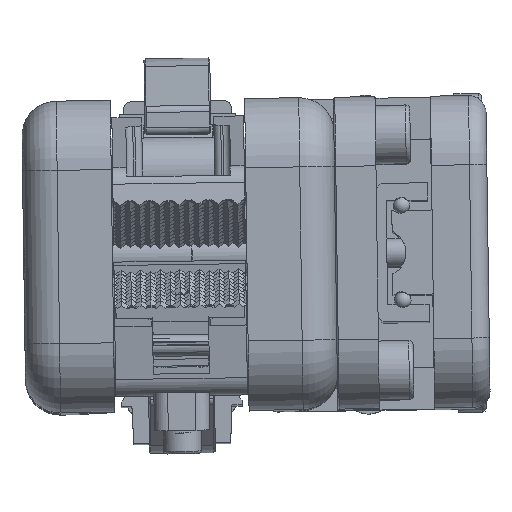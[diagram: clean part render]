
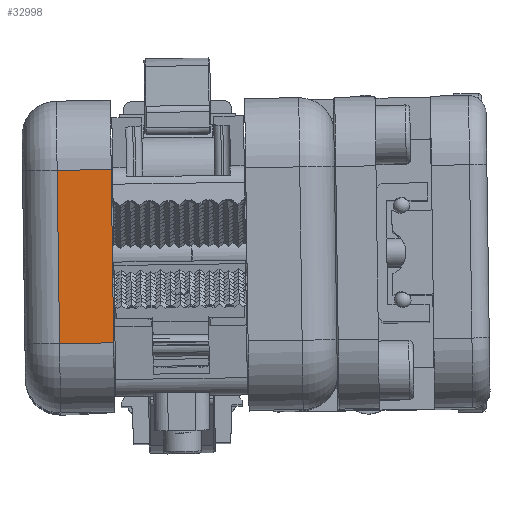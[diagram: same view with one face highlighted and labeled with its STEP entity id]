
A CAD part, top view. The second image highlights one B-rep face of the part: STEP entity #32998.
In plain terms, the highlighted planar face has unit normal (0, 0, 1).
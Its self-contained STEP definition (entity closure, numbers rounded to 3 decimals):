
#2957=LINE('',#87074,#6857);
#2960=LINE('',#87090,#6860);
#2964=LINE('',#87099,#6864);
#2971=LINE('',#87114,#6871);
#6857=VECTOR('',#69303,1.);
#6860=VECTOR('',#69320,1.);
#6864=VECTOR('',#69330,1.);
#6871=VECTOR('',#69345,1.);
#28280=PLANE('',#60632);
#30462=FACE_OUTER_BOUND('',#37496,.T.);
#32998=ADVANCED_FACE('',(#30462),#28280,.F.);
#37496=EDGE_LOOP('',(#45274,#45275,#45276,#45277));
#45274=ORIENTED_EDGE('',*,*,#55374,.T.);
#45275=ORIENTED_EDGE('',*,*,#55361,.T.);
#45276=ORIENTED_EDGE('',*,*,#55383,.T.);
#45277=ORIENTED_EDGE('',*,*,#55369,.T.);
#51085=VERTEX_POINT('',#87064);
#51088=VERTEX_POINT('',#87072);
#51093=VERTEX_POINT('',#87083);
#51095=VERTEX_POINT('',#87088);
#55361=EDGE_CURVE('',#51085,#51088,#2957,.T.);
#55369=EDGE_CURVE('',#51095,#51093,#2960,.T.);
#55374=EDGE_CURVE('',#51093,#51085,#2964,.T.);
#55383=EDGE_CURVE('',#51088,#51095,#2971,.T.);
#60632=AXIS2_PLACEMENT_3D('',#87126,#69359,#69360);
#69303=DIRECTION('',(1.,0.014,0.));
#69320=DIRECTION('',(-1.,-0.014,0.));
#69330=DIRECTION('',(0.014,-1.,0.));
#69345=DIRECTION('',(-0.014,1.,0.));
#69359=DIRECTION('',(0.,0.,-1.));
#69360=DIRECTION('',(-0.014,1.,0.));
#87064=CARTESIAN_POINT('',(-17.322,-12.745,282.));
#87072=CARTESIAN_POINT('',(-9.523,-12.635,282.));
#87074=CARTESIAN_POINT('',(-22.322,-12.815,282.));
#87083=CARTESIAN_POINT('',(-17.674,12.253,282.));
#87088=CARTESIAN_POINT('',(-9.875,12.362,282.));
#87090=CARTESIAN_POINT('',(-22.674,12.182,282.));
#87099=CARTESIAN_POINT('',(-17.182,-22.744,282.));
#87114=CARTESIAN_POINT('',(-10.016,22.361,282.));
#87126=CARTESIAN_POINT('',(-22.814,22.181,282.));
